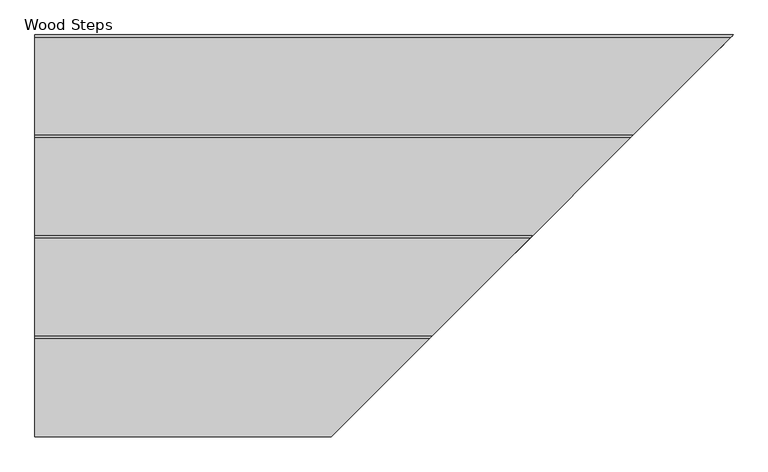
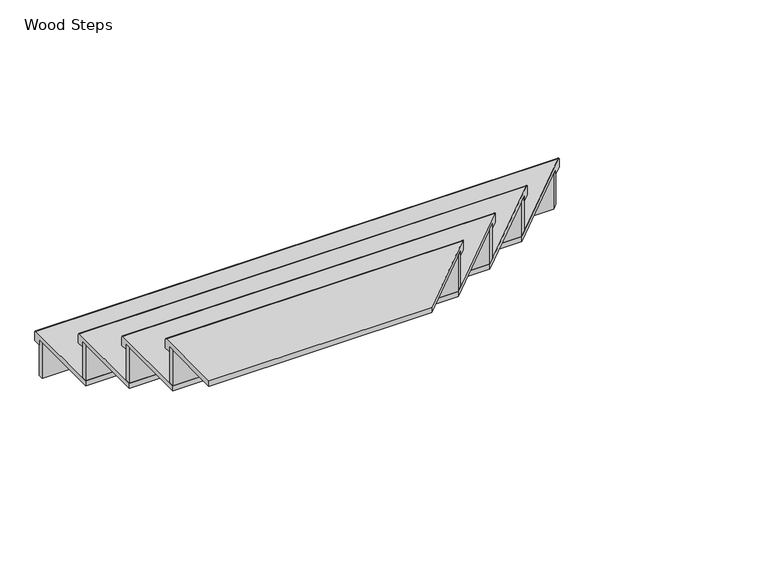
"""IFC4 building model written with IfcOpenShell, lengths in millimetres: stair flight geometry, Wood Steps."""

from ifc_helpers import new_model, si_unit, frame, origin, place, context, project, spatial, circle_curve, ellipse_curve, faceted_brep, source, transform, mapped, element, save
from ifc_brep_helpers import plane_surface, cylinder_surface, advanced_brep


def wood_steps_071663ab(model_context):
    return source(origin(), model_context, "Body", "SolidModel", [
        advanced_brep(
        [(27712.5670833, 12475.2499284, -615.95), (27712.5670833, 12468.8999284, -609.6), (29560.4170833, 12468.8999284, -609.6), (29566.7670833, 12475.2499284, -615.95), (27712.5670833, 12475.2499284, -647.7), (29566.7670833, 12475.2499284, -647.7), (27712.5670833, 12449.8499284, -647.7), (29541.3670833, 12449.8499284, -647.7), (29541.3670833, 12449.8499284, -628.65), (27712.5670833, 12449.8499284, -628.65), (27712.5670833, 12164.0999284, -609.6), (29255.6170833, 12164.0999284, -609.6), (29255.6170833, 12164.0999284, -628.65), (27712.5670833, 12164.0999284, -628.65)],
        [
            (0, 1, circle_curve(frame((27712.5670833, 12468.8999284, -615.95), z_axis=(1.0, 0.0, 0.0), x_axis=(0.0, -1.0, 0.0)), 6.35)),
            (1, 2),
            (2, 3, ellipse_curve(frame((29560.4170833, 12468.8999284, -615.95), z_axis=(-0.7071067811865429, 0.7071067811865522, 0.0), x_axis=(-0.707106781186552, -0.7071067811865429, 0.0)), 8.9802561, 6.35)),
            (3, 0),
            (4, 0),
            (3, 5),
            (5, 4),
            (6, 4),
            (5, 7),
            (7, 6),
            (7, 8),
            (8, 9),
            (9, 6),
            (1, 10),
            (10, 11),
            (11, 2),
            (8, 12),
            (12, 13),
            (13, 9),
            (11, 12),
            (13, 10),
        ],
        [
            cylinder_surface(frame((27712.5670833, 12468.8999284, -615.95), z_axis=(-1.0, 0.0, 0.0), x_axis=(0.0, -1.0, 0.0)), 6.35),
            plane_surface(frame((27712.5670833, 12475.2499284, -615.95), z_axis=(0.0, 1.0, 0.0), x_axis=(1.0, 0.0, 0.0))),
            plane_surface(frame((27712.5670833, 12475.2499284, -647.7), z_axis=(0.0, 0.0, -1.0), x_axis=(1.0, 0.0, 0.0))),
            plane_surface(frame((27712.5670833, 12449.8499284, -647.7), z_axis=(0.0, -1.0, 0.0), x_axis=(1.0, 0.0, 0.0))),
            plane_surface(frame((29291.5060362, 12199.9888814, -609.6), z_axis=(0.0, 0.0, 1.0), x_axis=(0.7071067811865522, 0.7071067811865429, 0.0))),
            plane_surface(frame((29291.5060362, 12199.9888814, -628.65), z_axis=(0.0, 0.0, -1.0), x_axis=(-0.7071067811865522, -0.7071067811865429, 0.0))),
            plane_surface(frame((29255.6170833, 12164.0999284, -609.6), z_axis=(0.7071067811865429, -0.7071067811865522, 0.0), x_axis=(0.0, 0.0, -1.0))),
            plane_surface(frame((27712.5670833, 12449.8499284, -609.6), z_axis=(-1.0, 0.0, 0.0), x_axis=(0.0, 0.0, -1.0))),
            plane_surface(frame((27712.5670833, 12164.0999284, -609.6), z_axis=(0.0, -1.0, 0.0), x_axis=(0.0, 0.0, -1.0))),
        ],
        [
            (0, [[1, 2, 3, 4]]),
            (1, [[5, -4, 6, 7]]),
            (2, [[8, -7, 9, 10]]),
            (3, [[-10, 11, 12, 13]]),
            (4, [[-2, 14, 15, 16]]),
            (5, [[17, 18, 19, -12]]),
            (6, [[-16, 20, -17, -11, -9, -6, -3]]),
            (7, [[-14, -1, -5, -8, -13, -19, 21]]),
            (8, [[-15, -21, -18, -20]]),
        ],
    ),
        faceted_brep([(27712.5670833, 12449.8499284, -628.65), (27712.5670833, 12449.8499284, -762.0), (27712.5670833, 12430.7999284, -762.0), (27712.5670833, 12430.7999284, -628.65), (29541.3670833, 12449.8499284, -628.65), (29522.3170833, 12430.7999284, -628.65), (29522.3170833, 12430.7999284, -762.0), (29541.3670833, 12449.8499284, -762.0)], [[[0, 1, 2, 3]], [[4, 5, 6, 7]], [[1, 0, 4, 7]], [[2, 1, 7, 6]], [[3, 2, 6, 5]], [[0, 3, 5, 4]]]),
        faceted_brep([(27712.5670833, 12183.1499284, -476.25), (27712.5670833, 12183.1499284, -609.6), (27712.5670833, 12164.0999284, -609.6), (27712.5670833, 12164.0999284, -476.25), (29274.6670833, 12183.1499284, -476.25), (29255.6170833, 12164.0999284, -476.25), (29255.6170833, 12164.0999284, -609.6), (29274.6670833, 12183.1499284, -609.6)], [[[0, 1, 2, 3]], [[4, 5, 6, 7]], [[1, 0, 4, 7]], [[2, 1, 7, 6]], [[3, 2, 6, 5]], [[0, 3, 5, 4]]]),
        advanced_brep(
        [(29293.7170833, 12202.1999284, -457.2), (27712.5670833, 12202.1999284, -457.2), (27712.5670833, 11897.3999284, -457.2), (28988.9170833, 11897.3999284, -457.2), (29274.6670833, 12183.1499284, -476.25), (28988.9170833, 11897.3999284, -476.25), (27712.5670833, 11897.3999284, -476.25), (27712.5670833, 12183.1499284, -476.25), (27712.5670833, 12208.5499284, -463.55), (29300.0670833, 12208.5499284, -463.55), (27712.5670833, 12208.5499284, -495.3), (29300.0670833, 12208.5499284, -495.3), (27712.5670833, 12183.1499284, -495.3), (29274.6670833, 12183.1499284, -495.3)],
        [
            (0, 1),
            (1, 2),
            (2, 3),
            (3, 0),
            (4, 5),
            (5, 6),
            (6, 7),
            (7, 4),
            (2, 6),
            (5, 3),
            (8, 1, circle_curve(frame((27712.5670833, 12202.1999284, -463.55), z_axis=(1.0, 0.0, 0.0), x_axis=(0.0, -1.0, 0.0)), 6.35)),
            (0, 9, ellipse_curve(frame((29293.7170833, 12202.1999284, -463.55), z_axis=(-0.7071067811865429, 0.7071067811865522, 0.0), x_axis=(-0.7071067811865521, -0.7071067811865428, 0.0)), 8.9802561, 6.35)),
            (9, 8),
            (10, 8),
            (9, 11),
            (11, 10),
            (12, 10),
            (11, 13),
            (13, 12),
            (13, 4),
            (7, 12),
        ],
        [
            plane_surface(frame((29291.5060362, 12199.9888814, -457.2), z_axis=(0.0, 0.0, 1.0), x_axis=(0.7071067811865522, 0.7071067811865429, 0.0))),
            plane_surface(frame((29291.5060362, 12199.9888814, -476.25), z_axis=(0.0, 0.0, -1.0), x_axis=(-0.7071067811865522, -0.7071067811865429, 0.0))),
            plane_surface(frame((27712.5670833, 11897.3999284, -457.2), z_axis=(0.0, -1.0, 0.0), x_axis=(0.0, 0.0, -1.0))),
            cylinder_surface(frame((27712.5670833, 12202.1999284, -463.55), z_axis=(-1.0, 0.0, 0.0), x_axis=(0.0, -1.0, 0.0)), 6.35),
            plane_surface(frame((27712.5670833, 12208.5499284, -463.55), z_axis=(0.0, 1.0, 0.0), x_axis=(1.0, 0.0, 0.0))),
            plane_surface(frame((27712.5670833, 12208.5499284, -495.3), z_axis=(0.0, 0.0, -1.0), x_axis=(1.0, 0.0, 0.0))),
            plane_surface(frame((27712.5670833, 12183.1499284, -495.3), z_axis=(0.0, -1.0, 0.0), x_axis=(1.0, 0.0, 0.0))),
            plane_surface(frame((28988.9170833, 11897.3999284, -457.2), z_axis=(0.7071067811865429, -0.7071067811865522, 0.0), x_axis=(0.0, 0.0, -1.0))),
            plane_surface(frame((27712.5670833, 12183.1499284, -457.2), z_axis=(-1.0, 0.0, 0.0), x_axis=(0.0, 0.0, -1.0))),
        ],
        [
            (0, [[1, 2, 3, 4]]),
            (1, [[5, 6, 7, 8]]),
            (2, [[-3, 9, -6, 10]]),
            (3, [[11, -1, 12, 13]]),
            (4, [[14, -13, 15, 16]]),
            (5, [[17, -16, 18, 19]]),
            (6, [[-19, 20, -8, 21]]),
            (7, [[-4, -10, -5, -20, -18, -15, -12]]),
            (8, [[-2, -11, -14, -17, -21, -7, -9]]),
        ],
    ),
        faceted_brep([(27712.5670833, 11649.7499284, -171.45), (27712.5670833, 11649.7499284, -304.8), (27712.5670833, 11630.6999284, -304.8), (27712.5670833, 11630.6999284, -171.45), (28741.2670833, 11649.7499284, -171.45), (28722.2170833, 11630.6999284, -171.45), (28722.2170833, 11630.6999284, -304.8), (28741.2670833, 11649.7499284, -304.8)], [[[0, 1, 2, 3]], [[4, 5, 6, 7]], [[1, 0, 4, 7]], [[2, 1, 7, 6]], [[3, 2, 6, 5]], [[0, 3, 5, 4]]]),
        advanced_brep(
        [(28760.3170833, 11668.7999284, -152.4), (27712.5670833, 11668.7999284, -152.4), (27712.5670833, 11408.4499284, -152.4), (28499.9670833, 11408.4499284, -152.4), (28741.2670833, 11649.7499284, -171.45), (28499.9670833, 11408.4499284, -171.45), (27712.5670833, 11408.4499284, -171.45), (27712.5670833, 11649.7499284, -171.45), (27712.5670833, 11675.1499284, -158.75), (28766.6670833, 11675.1499284, -158.75), (27712.5670833, 11675.1499284, -190.5), (28766.6670833, 11675.1499284, -190.5), (27712.5670833, 11649.7499284, -190.5), (28741.2670833, 11649.7499284, -190.5)],
        [
            (0, 1),
            (1, 2),
            (2, 3),
            (3, 0),
            (4, 5),
            (5, 6),
            (6, 7),
            (7, 4),
            (2, 6),
            (5, 3),
            (8, 1, circle_curve(frame((27712.5670833, 11668.7999284, -158.75), z_axis=(1.0, 0.0, 0.0), x_axis=(0.0, -1.0, 0.0)), 6.35)),
            (0, 9, ellipse_curve(frame((28760.3170833, 11668.7999284, -158.75), z_axis=(-0.7071067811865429, 0.7071067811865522, 0.0), x_axis=(-0.7071067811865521, -0.7071067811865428, 0.0)), 8.9802561, 6.35)),
            (9, 8),
            (10, 8),
            (9, 11),
            (11, 10),
            (12, 10),
            (11, 13),
            (13, 12),
            (13, 4),
            (7, 12),
        ],
        [
            plane_surface(frame((29291.5060362, 12199.9888814, -152.4), z_axis=(0.0, 0.0, 1.0), x_axis=(0.7071067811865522, 0.7071067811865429, 0.0))),
            plane_surface(frame((29291.5060362, 12199.9888814, -171.45), z_axis=(0.0, 0.0, -1.0), x_axis=(-0.7071067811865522, -0.7071067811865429, 0.0))),
            plane_surface(frame((27712.5670833, 11408.4499284, -152.4), z_axis=(0.0, -1.0, 0.0), x_axis=(0.0, 0.0, -1.0))),
            cylinder_surface(frame((27712.5670833, 11668.7999284, -158.75), z_axis=(-1.0, 0.0, 0.0), x_axis=(0.0, -1.0, 0.0)), 6.35),
            plane_surface(frame((27712.5670833, 11675.1499284, -158.75), z_axis=(0.0, 1.0, 0.0), x_axis=(1.0, 0.0, 0.0))),
            plane_surface(frame((27712.5670833, 11675.1499284, -190.5), z_axis=(0.0, 0.0, -1.0), x_axis=(1.0, 0.0, 0.0))),
            plane_surface(frame((27712.5670833, 11649.7499284, -190.5), z_axis=(0.0, -1.0, 0.0), x_axis=(1.0, 0.0, 0.0))),
            plane_surface(frame((28499.9670833, 11408.4499284, -152.4), z_axis=(0.7071067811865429, -0.7071067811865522, 0.0), x_axis=(0.0, 0.0, -1.0))),
            plane_surface(frame((27712.5670833, 11649.7499284, -152.4), z_axis=(-1.0, 0.0, 0.0), x_axis=(0.0, 0.0, -1.0))),
        ],
        [
            (0, [[1, 2, 3, 4]]),
            (1, [[5, 6, 7, 8]]),
            (2, [[-3, 9, -6, 10]]),
            (3, [[11, -1, 12, 13]]),
            (4, [[14, -13, 15, 16]]),
            (5, [[17, -16, 18, 19]]),
            (6, [[-19, 20, -8, 21]]),
            (7, [[-4, -10, -5, -20, -18, -15, -12]]),
            (8, [[-2, -11, -14, -17, -21, -7, -9]]),
        ],
    ),
        faceted_brep([(27712.5670833, 11916.4499284, -323.85), (27712.5670833, 11916.4499284, -457.2), (27712.5670833, 11897.3999284, -457.2), (27712.5670833, 11897.3999284, -323.85), (29007.9670833, 11916.4499284, -323.85), (28988.9170833, 11897.3999284, -323.85), (28988.9170833, 11897.3999284, -457.2), (29007.9670833, 11916.4499284, -457.2)], [[[0, 1, 2, 3]], [[4, 5, 6, 7]], [[1, 0, 4, 7]], [[2, 1, 7, 6]], [[3, 2, 6, 5]], [[0, 3, 5, 4]]]),
        advanced_brep(
        [(29027.0170833, 11935.4999284, -304.8), (27712.5670833, 11935.4999284, -304.8), (27712.5670833, 11630.6999284, -304.8), (28722.2170833, 11630.6999284, -304.8), (29007.9670833, 11916.4499284, -323.85), (28722.2170833, 11630.6999284, -323.85), (27712.5670833, 11630.6999284, -323.85), (27712.5670833, 11916.4499284, -323.85), (27712.5670833, 11941.8499284, -311.15), (29033.3670833, 11941.8499284, -311.15), (27712.5670833, 11941.8499284, -342.9), (29033.3670833, 11941.8499284, -342.9), (27712.5670833, 11916.4499284, -342.9), (29007.9670833, 11916.4499284, -342.9)],
        [
            (0, 1),
            (1, 2),
            (2, 3),
            (3, 0),
            (4, 5),
            (5, 6),
            (6, 7),
            (7, 4),
            (2, 6),
            (5, 3),
            (8, 1, circle_curve(frame((27712.5670833, 11935.4999284, -311.15), z_axis=(1.0, 0.0, 0.0), x_axis=(0.0, -1.0, 0.0)), 6.35)),
            (0, 9, ellipse_curve(frame((29027.0170833, 11935.4999284, -311.15), z_axis=(-0.7071067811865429, 0.7071067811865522, 0.0), x_axis=(-0.707106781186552, -0.7071067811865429, 0.0)), 8.9802561, 6.35)),
            (9, 8),
            (10, 8),
            (9, 11),
            (11, 10),
            (12, 10),
            (11, 13),
            (13, 12),
            (13, 4),
            (7, 12),
        ],
        [
            plane_surface(frame((29291.5060362, 12199.9888814, -304.8), z_axis=(0.0, 0.0, 1.0), x_axis=(0.7071067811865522, 0.7071067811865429, 0.0))),
            plane_surface(frame((29291.5060362, 12199.9888814, -323.85), z_axis=(0.0, 0.0, -1.0), x_axis=(-0.7071067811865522, -0.7071067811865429, 0.0))),
            plane_surface(frame((27712.5670833, 11630.6999284, -304.8), z_axis=(0.0, -1.0, 0.0), x_axis=(0.0, 0.0, -1.0))),
            cylinder_surface(frame((27712.5670833, 11935.4999284, -311.15), z_axis=(-1.0, 0.0, 0.0), x_axis=(0.0, -1.0, 0.0)), 6.35),
            plane_surface(frame((27712.5670833, 11941.8499284, -311.15), z_axis=(0.0, 1.0, 0.0), x_axis=(1.0, 0.0, 0.0))),
            plane_surface(frame((27712.5670833, 11941.8499284, -342.9), z_axis=(0.0, 0.0, -1.0), x_axis=(1.0, 0.0, 0.0))),
            plane_surface(frame((27712.5670833, 11916.4499284, -342.9), z_axis=(0.0, -1.0, 0.0), x_axis=(1.0, 0.0, 0.0))),
            plane_surface(frame((28722.2170833, 11630.6999284, -304.8), z_axis=(0.7071067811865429, -0.7071067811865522, 0.0), x_axis=(0.0, 0.0, -1.0))),
            plane_surface(frame((27712.5670833, 11916.4499284, -304.8), z_axis=(-1.0, 0.0, 0.0), x_axis=(0.0, 0.0, -1.0))),
        ],
        [
            (0, [[1, 2, 3, 4]]),
            (1, [[5, 6, 7, 8]]),
            (2, [[-3, 9, -6, 10]]),
            (3, [[11, -1, 12, 13]]),
            (4, [[14, -13, 15, 16]]),
            (5, [[17, -16, 18, 19]]),
            (6, [[-19, 20, -8, 21]]),
            (7, [[-4, -10, -5, -20, -18, -15, -12]]),
            (8, [[-2, -11, -14, -17, -21, -7, -9]]),
        ],
    ),
    ])


if __name__ == "__main__":
    model = new_model("IFC4")
    model_context = context("Model", 3, world=origin())
    ifc_project = project(units=[si_unit("LENGTHUNIT", "METRE", prefix="MILLI")], contexts=[model_context])
    site = spatial("IfcSite", under=ifc_project)
    building = spatial("IfcBuilding", under=site)
    placement = place(None, origin())
    wood_steps_shape = wood_steps_071663ab(model_context)
    element("IfcStairFlight", 1, ObjectType="Wood Steps", at=placement, inside=building, context=model_context, shape_type="MappedRepresentation", body=[
        mapped(wood_steps_shape, transform((0.0, 0.0, 0.0), x_axis=(1.0, 0.0, 0.0), y_axis=(0.0, 1.0, 0.0), z_axis=(0.0, 0.0, 1.0))),
    ])
    save(model, "model.ifc")
